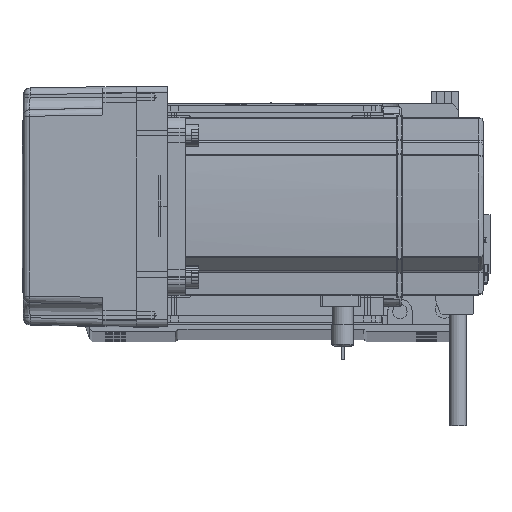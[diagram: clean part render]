
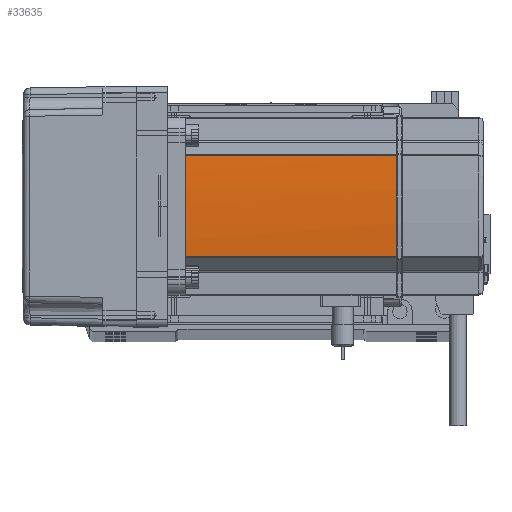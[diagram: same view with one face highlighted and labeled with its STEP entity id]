
A CAD part, top view. The second image highlights one B-rep face of the part: STEP entity #33635.
In plain terms, the highlighted cylindrical face has radius 270 mm (diameter 540 mm), a partial arc.
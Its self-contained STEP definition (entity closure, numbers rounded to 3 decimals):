
#820 = ORIENTED_EDGE ( 'NONE', *, *, #17785, .T. ) ;
#996 = EDGE_CURVE ( 'NONE', #36720, #3335, #43442, .T. ) ;
#1857 = AXIS2_PLACEMENT_3D ( 'NONE', #26764, #36748, #56198 ) ;
#2701 = ORIENTED_EDGE ( 'NONE', *, *, #50124, .F. ) ;
#2774 = FACE_OUTER_BOUND ( 'NONE', #22981, .T. ) ;
#3335 = VERTEX_POINT ( 'NONE', #11462 ) ;
#3902 = VERTEX_POINT ( 'NONE', #28646 ) ;
#4892 = CARTESIAN_POINT ( 'NONE',  ( 39.042, -22.724, 134. ) ) ;
#5012 = AXIS2_PLACEMENT_3D ( 'NONE', #58352, #29115, #43866 ) ;
#5260 = CARTESIAN_POINT ( 'NONE',  ( 40., -0.127, 134. ) ) ;
#6206 = CARTESIAN_POINT ( 'NONE',  ( 40., 0.127, 134. ) ) ;
#7665 = CARTESIAN_POINT ( 'NONE',  ( 39.042, 22.724, 39. ) ) ;
#9595 = ORIENTED_EDGE ( 'NONE', *, *, #14779, .T. ) ;
#10966 = DIRECTION ( 'NONE',  ( 0., 0., 1. ) ) ;
#11462 = CARTESIAN_POINT ( 'NONE',  ( 39.042, -22.724, 39. ) ) ;
#12905 = AXIS2_PLACEMENT_3D ( 'NONE', #29175, #14661, #63856 ) ;
#13026 = DIRECTION ( 'NONE',  ( 0., 0., -1. ) ) ;
#14661 = DIRECTION ( 'NONE',  ( 0., 0., -1. ) ) ;
#14779 = EDGE_CURVE ( 'NONE', #47406, #3335, #45534, .T. ) ;
#16092 = CARTESIAN_POINT ( 'NONE',  ( 40., 0.042, 134. ) ) ;
#17550 = CYLINDRICAL_SURFACE ( 'NONE', #30462, 270. ) ;
#17785 = EDGE_CURVE ( 'NONE', #54167, #41617, #54335, .T. ) ;
#18247 = DIRECTION ( 'NONE',  ( -1., 0., 0. ) ) ;
#18639 = EDGE_CURVE ( 'NONE', #3902, #47406, #62827, .T. ) ;
#21486 = ORIENTED_EDGE ( 'NONE', *, *, #996, .F. ) ;
#22662 = LINE ( 'NONE', #40697, #34321 ) ;
#22981 = EDGE_LOOP ( 'NONE', ( #9595, #21486, #56913, #820, #2701, #28041 ) ) ;
#26764 = CARTESIAN_POINT ( 'NONE',  ( -230., 0., 39. ) ) ;
#28041 = ORIENTED_EDGE ( 'NONE', *, *, #18639, .T. ) ;
#28646 = CARTESIAN_POINT ( 'NONE',  ( 40., -0.127, 134. ) ) ;
#29115 = DIRECTION ( 'NONE',  ( 0., 0., -1. ) ) ;
#29175 = CARTESIAN_POINT ( 'NONE',  ( -230., 0., 134. ) ) ;
#29478 = EDGE_CURVE ( 'NONE', #36720, #54167, #22662, .T. ) ;
#30462 = AXIS2_PLACEMENT_3D ( 'NONE', #37593, #13026, #18247 ) ;
#33635 = ADVANCED_FACE ( 'NONE', ( #2774 ), #17550, .T. ) ;
#34321 = VECTOR ( 'NONE', #10966, 1000. ) ;
#35411 = CARTESIAN_POINT ( 'NONE',  ( 40., 0.127, 134. ) ) ;
#36720 = VERTEX_POINT ( 'NONE', #7665 ) ;
#36748 = DIRECTION ( 'NONE',  ( 0., 0., -1. ) ) ;
#37593 = CARTESIAN_POINT ( 'NONE',  ( -230., 0., 58. ) ) ;
#40697 = CARTESIAN_POINT ( 'NONE',  ( 39.042, 22.724, 58. ) ) ;
#41617 = VERTEX_POINT ( 'NONE', #6206 ) ;
#43442 = CIRCLE ( 'NONE', #1857, 270. ) ;
#43866 = DIRECTION ( 'NONE',  ( -1., 0., 0. ) ) ;
#45534 = LINE ( 'NONE', #46610, #54831 ) ;
#46610 = CARTESIAN_POINT ( 'NONE',  ( 39.042, -22.724, 58. ) ) ;
#47406 = VERTEX_POINT ( 'NONE', #4892 ) ;
#50124 = EDGE_CURVE ( 'NONE', #3902, #41617, #57121, .T. ) ;
#51969 = DIRECTION ( 'NONE',  ( 0., 0., -1. ) ) ;
#53266 = CARTESIAN_POINT ( 'NONE',  ( 39.042, 22.724, 134. ) ) ;
#54167 = VERTEX_POINT ( 'NONE', #53266 ) ;
#54335 = CIRCLE ( 'NONE', #12905, 270. ) ;
#54831 = VECTOR ( 'NONE', #51969, 1000. ) ;
#56198 = DIRECTION ( 'NONE',  ( -1., 0., 0. ) ) ;
#56913 = ORIENTED_EDGE ( 'NONE', *, *, #29478, .T. ) ;
#57121 = B_SPLINE_CURVE_WITH_KNOTS ( 'NONE', 3,
 ( #5260, #60096, #16092, #35411 ),
 .UNSPECIFIED., .F., .F.,
 ( 4, 4 ),
 ( 0., 1. ),
 .UNSPECIFIED. ) ;
#58352 = CARTESIAN_POINT ( 'NONE',  ( -230., 0., 134. ) ) ;
#60096 = CARTESIAN_POINT ( 'NONE',  ( 40., -0.042, 134. ) ) ;
#62827 = CIRCLE ( 'NONE', #5012, 270. ) ;
#63856 = DIRECTION ( 'NONE',  ( -1., 0., 0. ) ) ;
